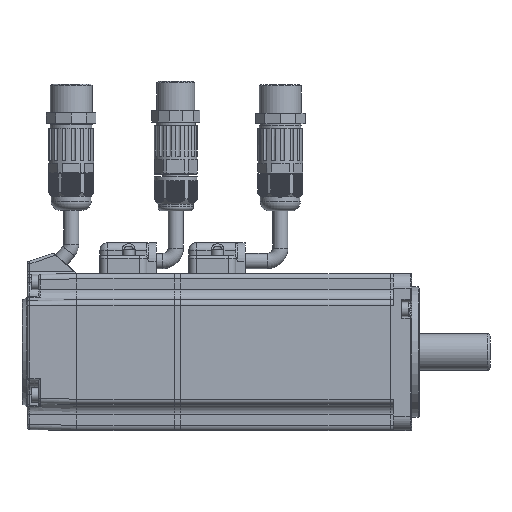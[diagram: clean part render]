
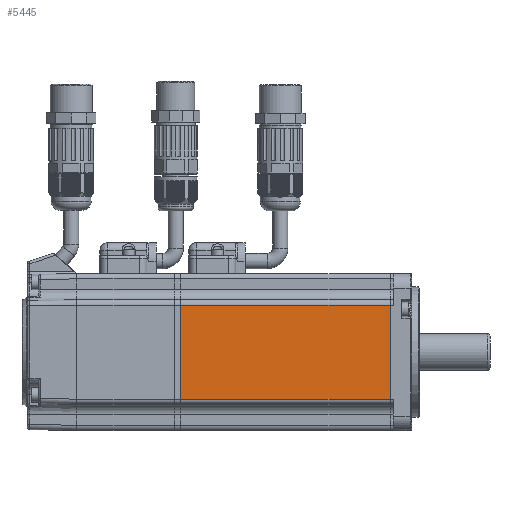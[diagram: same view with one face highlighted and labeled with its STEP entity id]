
A CAD part, left-side view. The second image highlights one B-rep face of the part: STEP entity #5445.
In plain terms, the highlighted planar face has unit normal (-1, 0, 0).
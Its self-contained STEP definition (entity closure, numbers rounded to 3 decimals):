
#3015=FACE_OUTER_BOUND('',#18083,.T.);
#5445=ADVANCED_FACE('',(#3015),#8133,.F.);
#8133=PLANE('',#47033);
#10039=LINE('',#62349,#13738);
#10051=LINE('',#62395,#13750);
#10052=LINE('',#62397,#13751);
#10078=LINE('',#62477,#13777);
#13738=VECTOR('',#50881,1.);
#13750=VECTOR('',#50923,1.);
#13751=VECTOR('',#50926,1.);
#13777=VECTOR('',#51020,1.);
#18083=EDGE_LOOP('',(#21199,#21200,#21201,#21202));
#21199=ORIENTED_EDGE('',*,*,#39042,.T.);
#21200=ORIENTED_EDGE('',*,*,#39018,.F.);
#21201=ORIENTED_EDGE('',*,*,#39041,.T.);
#21202=ORIENTED_EDGE('',*,*,#39080,.F.);
#34623=VERTEX_POINT('',#62348);
#34624=VERTEX_POINT('',#62350);
#34642=VERTEX_POINT('',#62394);
#34643=VERTEX_POINT('',#62398);
#39018=EDGE_CURVE('',#34623,#34624,#10039,.T.);
#39041=EDGE_CURVE('',#34623,#34642,#10051,.T.);
#39042=EDGE_CURVE('',#34643,#34624,#10052,.T.);
#39080=EDGE_CURVE('',#34643,#34642,#10078,.T.);
#47033=AXIS2_PLACEMENT_3D('',#62478,#51021,#51022);
#50881=DIRECTION('',(0.,0.,-1.));
#50923=DIRECTION('',(0.,1.,0.));
#50926=DIRECTION('',(0.,-1.,0.));
#51020=DIRECTION('',(0.,0.,1.));
#51021=DIRECTION('',(1.,0.,0.));
#51022=DIRECTION('',(0.,-1.,0.));
#62348=CARTESIAN_POINT('',(-115.303,95.19,32.521));
#62349=CARTESIAN_POINT('',(-115.303,95.19,14.521));
#62350=CARTESIAN_POINT('',(-115.303,95.19,-3.479));
#62394=CARTESIAN_POINT('',(-115.303,175.291,32.521));
#62395=CARTESIAN_POINT('',(-115.303,144.19,32.521));
#62397=CARTESIAN_POINT('',(-115.303,144.19,-3.479));
#62398=CARTESIAN_POINT('',(-115.303,175.291,-3.479));
#62477=CARTESIAN_POINT('',(-115.303,175.291,14.521));
#62478=CARTESIAN_POINT('',(-115.303,144.19,-15.479));
